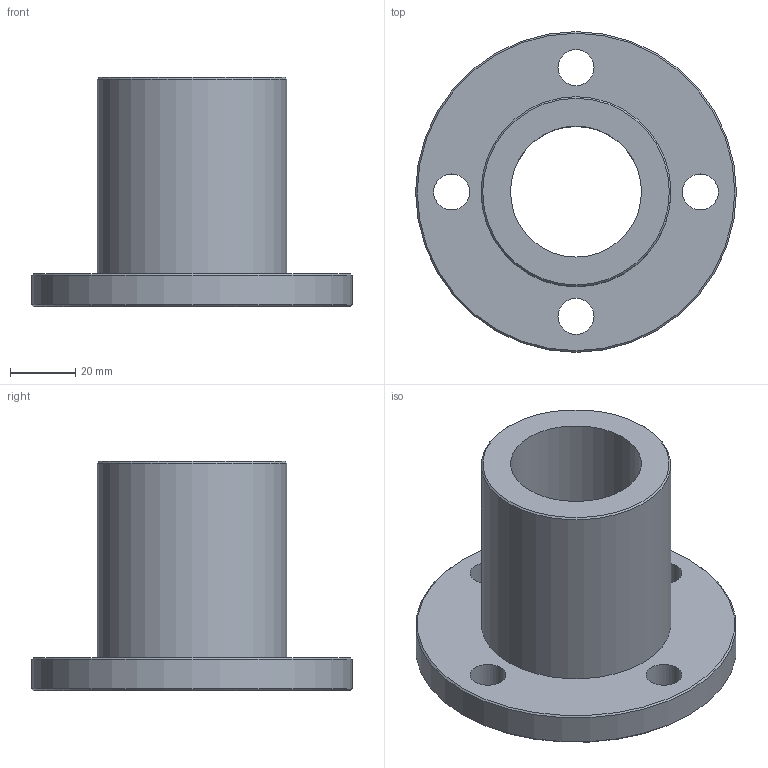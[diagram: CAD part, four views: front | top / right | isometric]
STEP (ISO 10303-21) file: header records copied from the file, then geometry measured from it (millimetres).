
FILE_DESCRIPTION(('STEP AP203'),'1');
FILE_NAME('//192.168.1.1/share/s-4 技術開発/s-4-4_CAD/s-4-4-3_見直し済み/018 修正済み/TMFON/TMFON_TOP/TMFON-40R.step','2022-02-08T05:34:53',(' '),(' '),'Spatial InterOp 3D',' ',' ');
FILE_SCHEMA(('CONFIG_CONTROL_DESIGN'));
Length unit declared in the file: millimetre
Products named in the file (1): 1
Bounding box: 98 x 98 x 70 mm (x, y, z)
Volume: 142089.1 mm3; surface area: 35768 mm2
Topology: 1 solids, 1 shells, 13 faces, 27 edges, 17 vertices
Faces by surface type: cylinder 7, plane 3, cone 3
Full cylindrical faces by diameter (mm): 11 x4, 40 x1, 58 x1, 98 x1
Entity records: 368 total; most frequent: DIRECTION 62, CARTESIAN_POINT 48, EDGE_LOOP 34, ORIENTED_EDGE 34, AXIS2_PLACEMENT_3D 31, FACE_OUTER_BOUND 20, EDGE_CURVE 17, VERTEX_POINT 17
